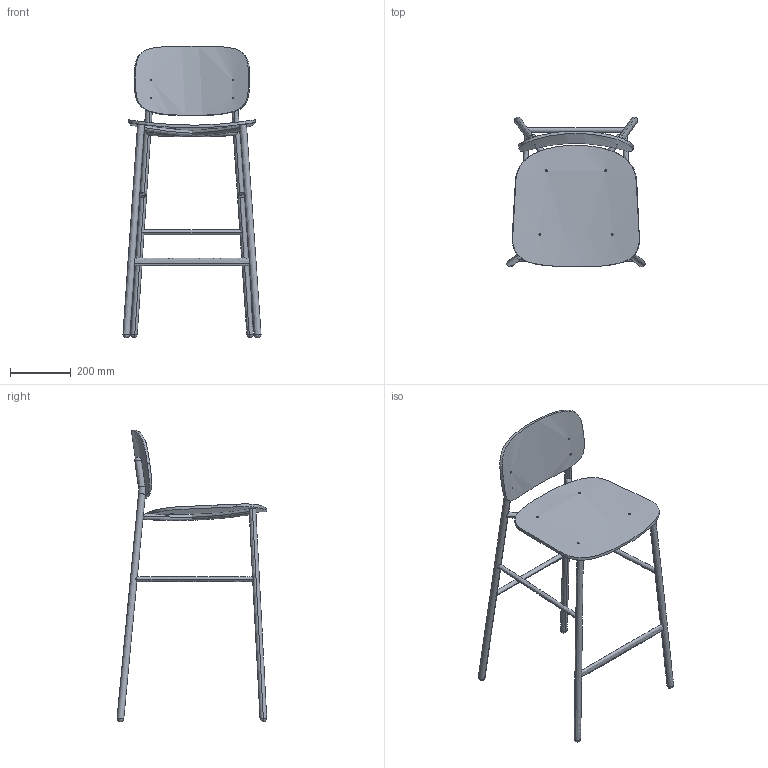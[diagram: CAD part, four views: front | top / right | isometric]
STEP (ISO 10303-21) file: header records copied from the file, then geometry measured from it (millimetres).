
FILE_DESCRIPTION(/* description */ (''),/* implementation_level */ '2;1');
FILE_NAME(/* name */ 'KINOSH~2',/* time_stamp */ '2019-07-19T17:14:13+09:00',/* author */ (''),/* organization */ (''),/* preprocessor_version */ 'ST-DEVELOPER v15',/* originating_system */ '',/* authorisation */ '');
FILE_SCHEMA (('AUTOMOTIVE_DESIGN'));
Length unit declared in the file: millimetre
Products named in the file (1): Document
Bounding box: 454.7 x 493.65 x 959.98 mm (x, y, z)
Volume: 3077965.9 mm3; surface area: 846914.5 mm2
Topology: 8 solids, 14 shells, 101 faces, 286 edges, 182 vertices
Faces by surface type: bspline 93, plane 8
Entity records: 8525 total; most frequent: CARTESIAN_POINT 6987, ORIENTED_EDGE 504, EDGE_CURVE 272, VERTEX_POINT 180, B_SPLINE_CURVE_WITH_KNOTS 126, EDGE_LOOP 125, ADVANCED_FACE 101, FACE_OUTER_BOUND 101
